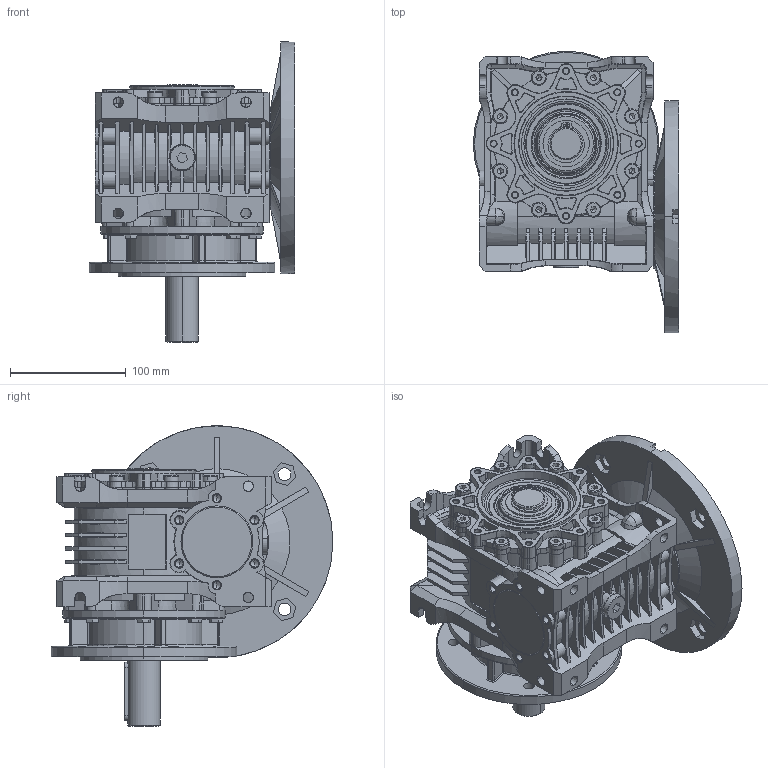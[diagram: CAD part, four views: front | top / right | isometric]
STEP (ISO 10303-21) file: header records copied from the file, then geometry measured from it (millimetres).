
FILE_DESCRIPTION (( 'STEP AP203' ), '1' );
FILE_NAME ('MR-63_200-19_K160-1_WJ-1_3D.STEP', '2023-09-26T10:49:09', ( '' ), ( '' ), 'SwSTEP 2.0', 'SolidWorks 2022', '' );
FILE_SCHEMA (( 'CONFIG_CONTROL_DESIGN' ));
Products named in the file (1): MR-63_200-19_K160-1_WJ-1_3D
Bounding box: 177 x 243 x 259 mm (x, y, z)
Volume: 2539564.8 mm3; surface area: 443664.3 mm2
Topology: 1 solids, 60 shells, 3371 faces, 8499 edges, 5259 vertices
Faces by surface type: plane 1296, cone 794, cylinder 781, torus 276, bspline 130, sphere 94
Entity records: 105684 total; most frequent: CARTESIAN_POINT 26327, DIRECTION 16796, ORIENTED_EDGE 16718, EDGE_CURVE 8359, AXIS2_PLACEMENT_3D 6452, VERTEX_POINT 5237, LINE 3892, VECTOR 3892
